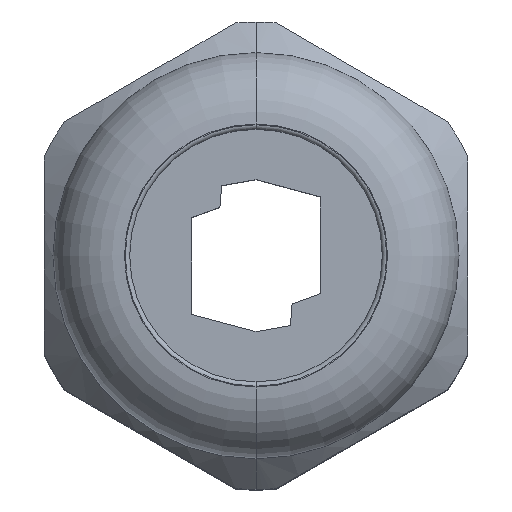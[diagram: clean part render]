
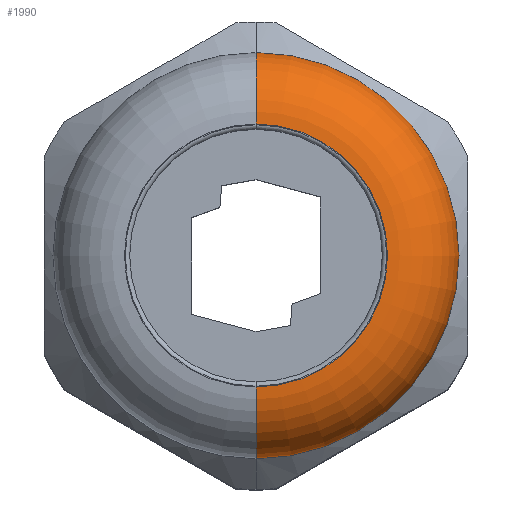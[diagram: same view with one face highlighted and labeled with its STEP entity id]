
A CAD part, top view. The second image highlights one B-rep face of the part: STEP entity #1990.
In plain terms, the highlighted toroidal (fillet/blend) face has major radius 9 mm and minor radius 4.9 mm.
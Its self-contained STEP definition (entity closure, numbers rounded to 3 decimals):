
#59 = DIRECTION ( 'NONE',  ( 1., 0., 0. ) ) ;
#63 = DIRECTION ( 'NONE',  ( 0., 1., 0. ) ) ;
#64 = CIRCLE ( 'NONE', #68, 4.9 ) ;
#65 = CARTESIAN_POINT ( 'NONE',  ( 0., -9., 38.1 ) ) ;
#68 = AXIS2_PLACEMENT_3D ( 'NONE', #65, #59, #63 ) ;
#201 = CARTESIAN_POINT ( 'NONE',  ( 0., -13.9, 38.1 ) ) ;
#202 = DIRECTION ( 'NONE',  ( 0., 1., 0. ) ) ;
#203 = DIRECTION ( 'NONE',  ( 0., 0., -1. ) ) ;
#204 = CARTESIAN_POINT ( 'NONE',  ( 0., 0., 38.1 ) ) ;
#231 = AXIS2_PLACEMENT_3D ( 'NONE', #204, #203, #202 ) ;
#232 = CIRCLE ( 'NONE', #231, 13.9 ) ;
#251 = DIRECTION ( 'NONE',  ( 0., 0., 1. ) ) ;
#252 = DIRECTION ( 'NONE',  ( -1., 0., 0. ) ) ;
#253 = AXIS2_PLACEMENT_3D ( 'NONE', #269, #252, #251 ) ;
#254 = CIRCLE ( 'NONE', #253, 4.9 ) ;
#269 = CARTESIAN_POINT ( 'NONE',  ( 0., 9., 38.1 ) ) ;
#270 = CARTESIAN_POINT ( 'NONE',  ( 0., 13.9, 38.1 ) ) ;
#1990 = ADVANCED_FACE ( 'NONE', ( #3152 ), #3150, .T. ) ;
#1991 = ORIENTED_EDGE ( 'NONE', *, *, #1992, .T. ) ;
#1992 = EDGE_CURVE ( 'NONE', #1993, #1994, #3139, .T. ) ;
#1993 = VERTEX_POINT ( 'NONE', #3134 ) ;
#1994 = VERTEX_POINT ( 'NONE', #3133 ) ;
#1995 = ORIENTED_EDGE ( 'NONE', *, *, #1996, .T. ) ;
#1996 = EDGE_CURVE ( 'NONE', #1994, #2103, #64, .T. ) ;
#1997 = ORIENTED_EDGE ( 'NONE', *, *, #2102, .F. ) ;
#2094 = VERTEX_POINT ( 'NONE', #270 ) ;
#2095 = ORIENTED_EDGE ( 'NONE', *, *, #2096, .F. ) ;
#2096 = EDGE_CURVE ( 'NONE', #1993, #2094, #254, .T. ) ;
#2102 = EDGE_CURVE ( 'NONE', #2094, #2103, #232, .T. ) ;
#2103 = VERTEX_POINT ( 'NONE', #201 ) ;
#2109 = EDGE_LOOP ( 'NONE', ( #1991, #1995, #1997, #2095 ) ) ;
#3133 = CARTESIAN_POINT ( 'NONE',  ( 0., -9., 43. ) ) ;
#3134 = CARTESIAN_POINT ( 'NONE',  ( 0., 9., 43. ) ) ;
#3135 = DIRECTION ( 'NONE',  ( 0., 1., 0. ) ) ;
#3136 = DIRECTION ( 'NONE',  ( 0., 0., -1. ) ) ;
#3137 = CARTESIAN_POINT ( 'NONE',  ( 0., 0., 43. ) ) ;
#3138 = AXIS2_PLACEMENT_3D ( 'NONE', #3137, #3136, #3135 ) ;
#3139 = CIRCLE ( 'NONE', #3138, 9. ) ;
#3140 = DIRECTION ( 'NONE',  ( 0., 1., 0. ) ) ;
#3141 = DIRECTION ( 'NONE',  ( 0., 0., -1. ) ) ;
#3142 = CARTESIAN_POINT ( 'NONE',  ( 0., 0., 38.1 ) ) ;
#3150 = TOROIDAL_SURFACE ( 'NONE', #3151, 9., 4.9 ) ;
#3151 = AXIS2_PLACEMENT_3D ( 'NONE', #3142, #3141, #3140 ) ;
#3152 = FACE_OUTER_BOUND ( 'NONE', #2109, .T. ) ;
